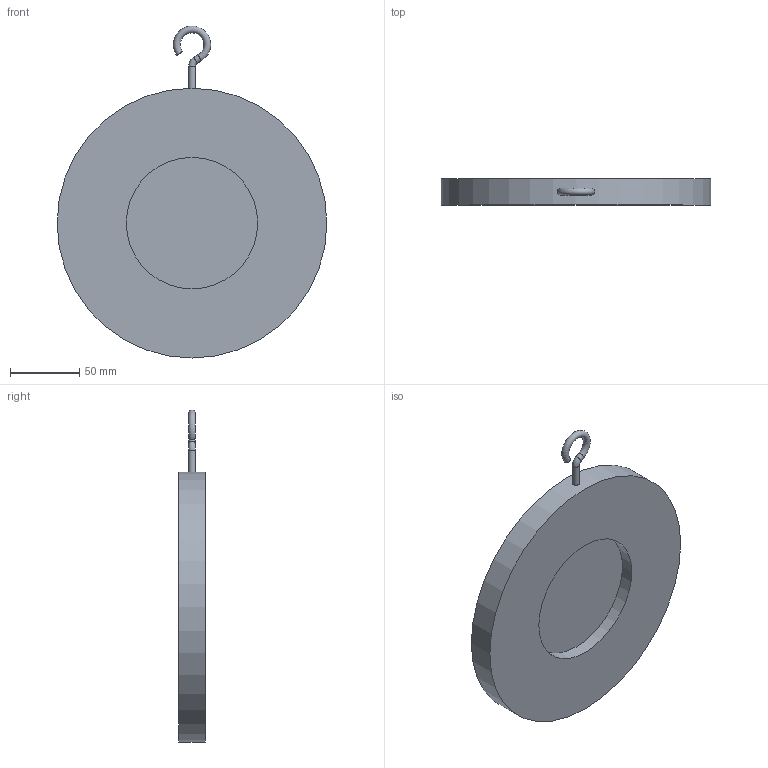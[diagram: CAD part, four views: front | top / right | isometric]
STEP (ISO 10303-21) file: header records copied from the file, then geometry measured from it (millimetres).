
FILE_DESCRIPTION(('STEP AP203'), '1');
FILE_NAME('孰囡囗 钺疣蝽 钿眍耱忸瘅囹 戾骠豚眦邂 008C.Y DN125', '', ('UNSPECIFIED'), ('UNSPECIFIED'), 'ASCON STEP Converter 1.6', 'ASCON Math Kernel', '');
FILE_SCHEMA(('CONFIG_CONTROL_DESIGN'));
Length unit declared in the file: millimetre
Bounding box: 195 x 19 x 239.99 mm (x, y, z)
Volume: 446709.9 mm3; surface area: 80580.9 mm2
Topology: 1 solids, 1 shells, 32 faces, 72 edges, 47 vertices
Faces by surface type: plane 17, cylinder 12, torus 2, cone 1
Full cylindrical faces by diameter (mm): 5 x2, 95 x1, 195 x1
Entity records: 1383 total; most frequent: CARTESIAN_POINT 384, DIRECTION 152, ORIENTED_EDGE 130, EDGE_CURVE 65, AXIS2_PLACEMENT_3D 59, VERTEX_POINT 47, EDGE_LOOP 44, LINE 34
